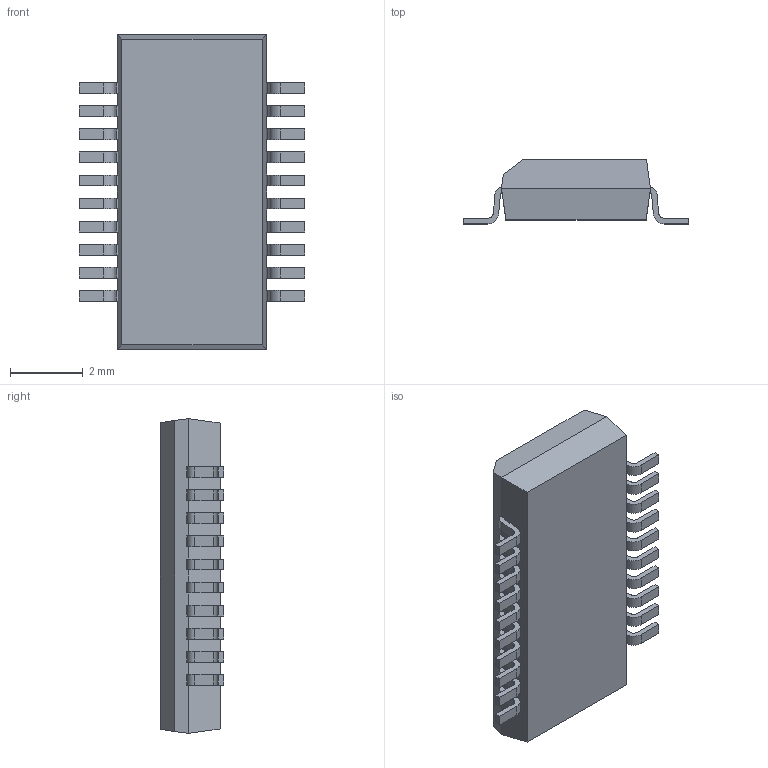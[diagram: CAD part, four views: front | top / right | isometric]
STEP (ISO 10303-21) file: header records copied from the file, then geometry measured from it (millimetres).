
FILE_DESCRIPTION (( 'STEP AP214' ), '1' );
FILE_NAME ('SOP63P600X175-20_MO-137.AD.STEP', '2014-10-28T13:23:30', ( 'Tester2' ), ( '' ), 'SwSTEP 2.0', 'SolidWorks 2012', '' );
FILE_SCHEMA (( 'AUTOMOTIVE_DESIGN' ));
Length unit declared in the file: millimetre
Products named in the file (1): SOP63P600X175-20_MO-137.AD
Bounding box: 6.2 x 1.75 x 8.66 mm (x, y, z)
Volume: 56.9 mm3; surface area: 135.9 mm2
Topology: 1 solids, 1 shells, 234 faces, 689 edges, 458 vertices
Faces by surface type: plane 152, cylinder 82
Entity records: 10272 total; most frequent: CARTESIAN_POINT 1382, ORIENTED_EDGE 1378, DIRECTION 1323, EDGE_CURVE 689, VECTOR 525, LINE 525, VERTEX_POINT 458, AXIS2_PLACEMENT_3D 399
